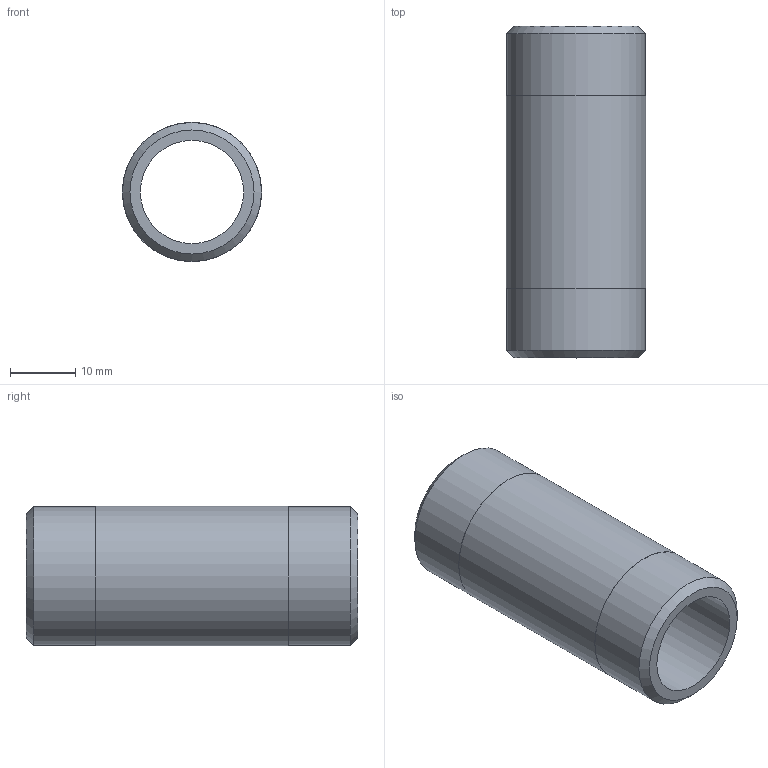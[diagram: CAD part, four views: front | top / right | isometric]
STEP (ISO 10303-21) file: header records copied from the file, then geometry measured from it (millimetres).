
FILE_DESCRIPTION(/* description */ (''),/* implementation_level */ '2;1');
FILE_NAME(/* name */ 'C:/Users/drich/Desktop/SSPN12-2 v1.step',/* time_stamp */ '2020-01-04T13:05:04-06:00',/* author */ (''),/* organization */ (''),/* preprocessor_version */ 'ST-DEVELOPER v18',/* originating_system */ 'Autodesk Translation Framework v8.12.0.6',/* authorisation */ '');
FILE_SCHEMA (('AUTOMOTIVE_DESIGN { 1 0 10303 214 3 1 1 }'));
Length unit declared in the file: inch
Products named in the file (1): SSPN12-2
Bounding box: 21.34 x 50.8 x 21.34 mm (x, y, z)
Volume: 8083.5 mm3; surface area: 6153.1 mm2
Topology: 1 solids, 1 shells, 10 faces, 24 edges, 18 vertices
Faces by surface type: cylinder 4, plane 4, cone 2
Full cylindrical faces by diameter (mm): 15.799 x1, 21.285 x2, 21.336 x1
Entity records: 353 total; most frequent: DIRECTION 64, CARTESIAN_POINT 53, ORIENTED_EDGE 48, AXIS2_PLACEMENT_3D 29, EDGE_CURVE 24, CIRCLE 18, VERTEX_POINT 18, EDGE_LOOP 14
